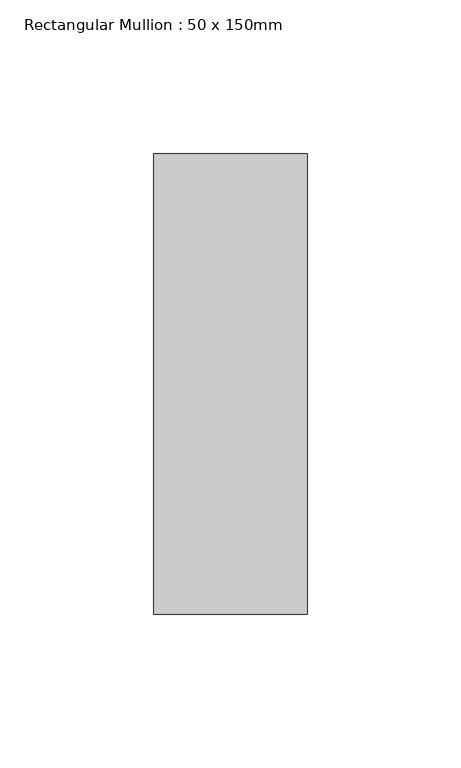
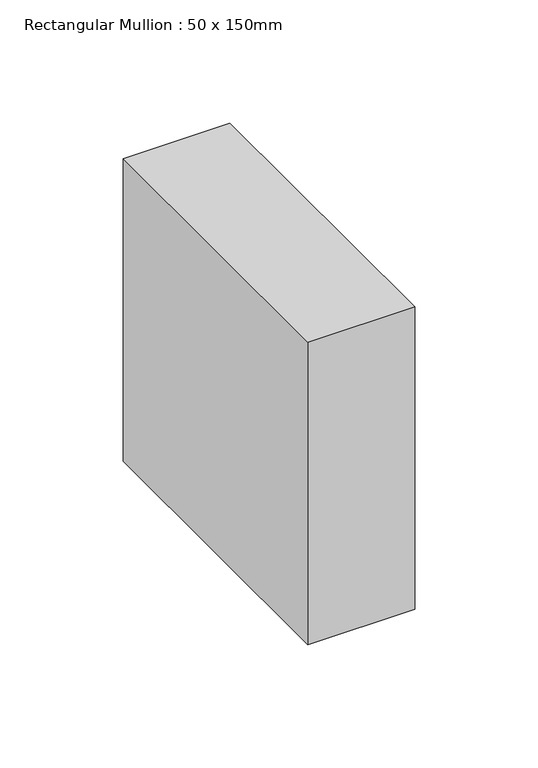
"""IFC4 building model written with IfcOpenShell, lengths in millimetres: member geometry, Rectangular Mullion : 50 x 150mm."""

from ifc_helpers import new_model, si_unit, frame, origin, place, context, project, spatial, polyline, outline, extrude, source, transform, mapped, element, save


def rectangular_mullion_50_x_150mm_e5f2d676(model_context):
    return source(origin(), model_context, "Body", "SweptSolid", [
        extrude(outline(polyline([(0.0, 75.0), (0.0, -75.0), (-50.0, -75.0), (-50.0, 75.0), (0.0, 75.0)])), frame((0.0, 0.0, -150.0), z_axis=(0.0, 0.0, 1.0), x_axis=(1.0, 0.0, 0.0)), (0.0, 0.0, 1.0), 150.0),
    ])


if __name__ == "__main__":
    model = new_model("IFC4")
    model_context = context("Model", 3, world=origin())
    ifc_project = project(units=[si_unit("LENGTHUNIT", "METRE", prefix="MILLI")], contexts=[model_context])
    site = spatial("IfcSite", under=ifc_project)
    building = spatial("IfcBuilding", under=site)
    placement = place(None, origin())
    rectangular_mullion_50_x_150mm_shape = rectangular_mullion_50_x_150mm_e5f2d676(model_context)
    element("IfcMember", 1, ObjectType="Rectangular Mullion : 50 x 150mm", at=placement, inside=building, context=model_context, shape_type="MappedRepresentation", body=[
        mapped(rectangular_mullion_50_x_150mm_shape, transform((0.0, 0.0, 0.0), x_axis=(1.0, 0.0, 0.0), y_axis=(0.0, 1.0, 0.0), z_axis=(0.0, 0.0, 1.0))),
    ])
    save(model, "model.ifc")
